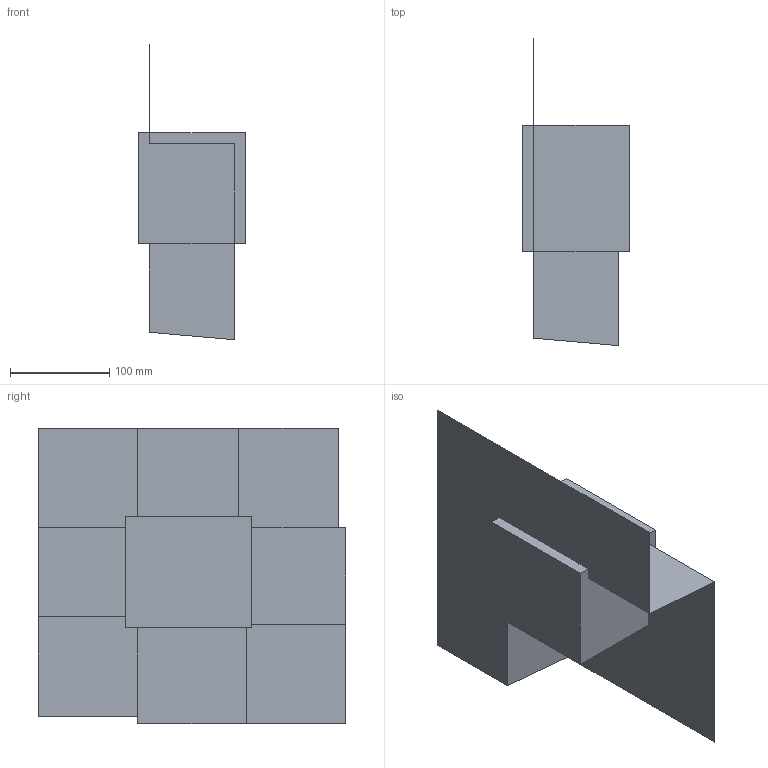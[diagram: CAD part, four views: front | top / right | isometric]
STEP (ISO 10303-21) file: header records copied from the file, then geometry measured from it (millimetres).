
FILE_DESCRIPTION(('CATIA V5 STEP Exchange'),'2;1');
FILE_NAME('C:\_Andres\UNIVERSIDAD\IQS\ASIGNATURAS\DAO\EXF\EXF-15161c\1original\Pañella_Caminero_Ej02-moldes_v17.stp','2016-03-04T15:45:40+00:00',('none'),('none'),'CATIA Version 5 Release 20 SP 1 (IN-10)','CATIA V5 STEP AP203','none');
FILE_SCHEMA(('CONFIG_CONTROL_DESIGN'));
Length unit declared in the file: millimetre
Products named in the file (1): Pañella_Caminero_Ej02-moldes_v17
Bounding box: 107 x 309.09 x 297.09 mm (x, y, z)
Volume: 3225806.3 mm3; surface area: 363282.1 mm2
Topology: 3 solids, 7 shells, 45 faces, 118 edges, 83 vertices
Faces by surface type: plane 41, cylinder 4
Entity records: 1101 total; most frequent: ORIENTED_EDGE 198, CARTESIAN_POINT 179, DIRECTION 147, EDGE_CURVE 83, VECTOR 73, LINE 73, VERTEX_POINT 56, EDGE_LOOP 49
